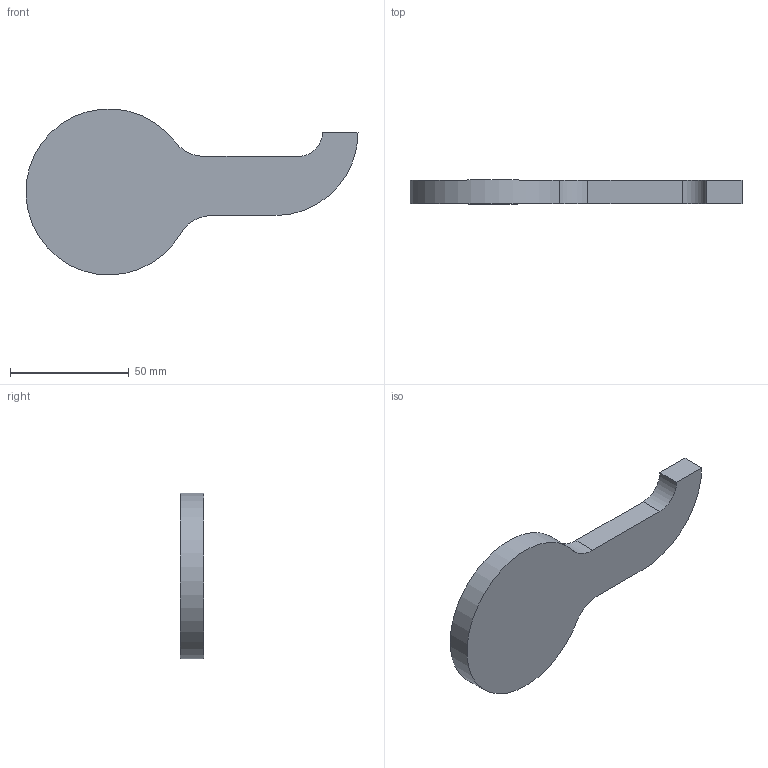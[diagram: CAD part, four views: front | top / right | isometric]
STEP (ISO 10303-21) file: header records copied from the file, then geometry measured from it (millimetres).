
FILE_DESCRIPTION(/* description */ (''),/* implementation_level */ '2;1');
FILE_NAME(/* name */ 'E:\OneDrive\Desktop\HGC_Tangency_04_2021\3D CAD Models\Task_3_HGC_Tangency_v1.stp',/* time_stamp */ '2021-04-10T20:32:11+01:00',/* author */ ('hunte'),/* organization */ (''),/* preprocessor_version */ 'ST-DEVELOPER v18.1',/* originating_system */ 'Autodesk Inventor 2020',/* authorisation */ '');
FILE_SCHEMA (('AUTOMOTIVE_DESIGN { 1 0 10303 214 3 1 1 }'));
Length unit declared in the file: millimetre
Products named in the file (1): Task_3_HGC_Tangency_v1
Bounding box: 139.94 x 10 x 69.89 mm (x, y, z)
Volume: 55533 mm3; surface area: 14717.2 mm2
Topology: 1 solids, 1 shells, 10 faces, 24 edges, 16 vertices
Faces by surface type: plane 5, cylinder 5
Entity records: 339 total; most frequent: DIRECTION 56, CARTESIAN_POINT 51, ORIENTED_EDGE 48, EDGE_CURVE 24, AXIS2_PLACEMENT_3D 21, VERTEX_POINT 16, LINE 14, VECTOR 14
